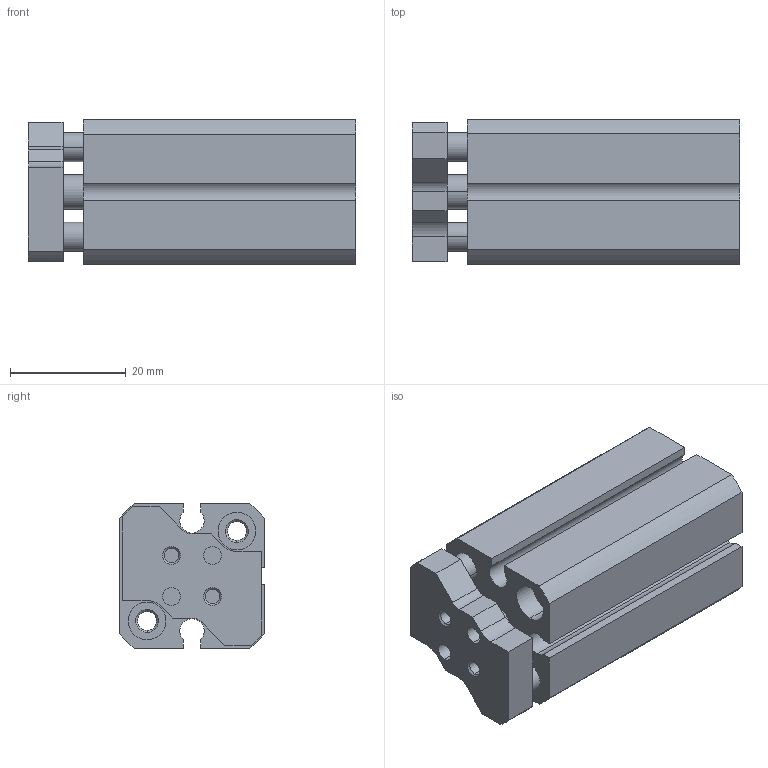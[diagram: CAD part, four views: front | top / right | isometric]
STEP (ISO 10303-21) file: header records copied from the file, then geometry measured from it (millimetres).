
FILE_DESCRIPTION (( 'STEP AP203' ), '1' );
FILE_NAME ('CCMG12-25.STEP', '2020-04-01T17:49:04', ( '' ), ( '' ), 'SwSTEP 2.0', 'SolidWorks 2019', '' );
FILE_SCHEMA (( 'CONFIG_CONTROL_DESIGN' ));
Length unit declared in the file: millimetre
Products named in the file (1): CCMG12-25
Bounding box: 56.5 x 25 x 25 mm (x, y, z)
Volume: 25351.4 mm3; surface area: 14874.8 mm2
Topology: 2 solids, 2 shells, 133 faces, 315 edges, 200 vertices
Faces by surface type: cylinder 64, plane 45, cone 24
Entity records: 3936 total; most frequent: DIRECTION 727, CARTESIAN_POINT 645, ORIENTED_EDGE 622, EDGE_CURVE 311, AXIS2_PLACEMENT_3D 282, VERTEX_POINT 200, VECTOR 163, EDGE_LOOP 163
